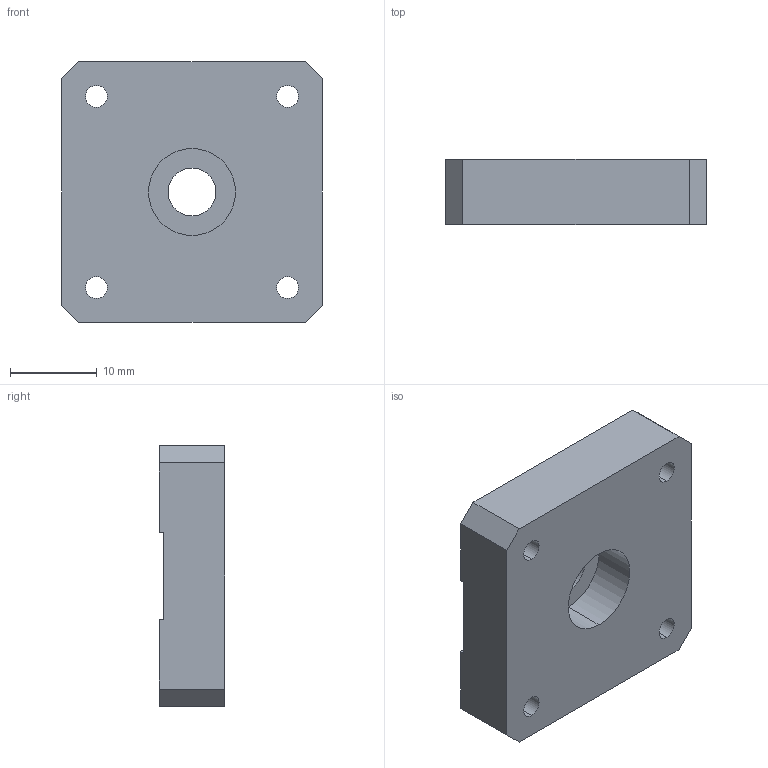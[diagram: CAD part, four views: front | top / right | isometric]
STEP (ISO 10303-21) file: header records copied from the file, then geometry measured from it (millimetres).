
FILE_DESCRIPTION (( 'STEP AP214' ), '1' );
FILE_NAME ('アタッチメント.STEP', '2025-04-18T02:00:33', ( '' ), ( '' ), 'SwSTEP 2.0', 'SolidWorks 2023', '' );
FILE_SCHEMA (( 'AUTOMOTIVE_DESIGN' ));
Length unit declared in the file: millimetre
Products named in the file (1): アタッチメント
Bounding box: 30 x 7.5 x 30 mm (x, y, z)
Volume: 5952.5 mm3; surface area: 3009.3 mm2
Topology: 1 solids, 1 shells, 27 faces, 72 edges, 48 vertices
Faces by surface type: plane 15, cylinder 12
Entity records: 981 total; most frequent: DIRECTION 152, CARTESIAN_POINT 148, ORIENTED_EDGE 144, EDGE_CURVE 72, AXIS2_PLACEMENT_3D 52, LINE 48, VERTEX_POINT 48, VECTOR 48
